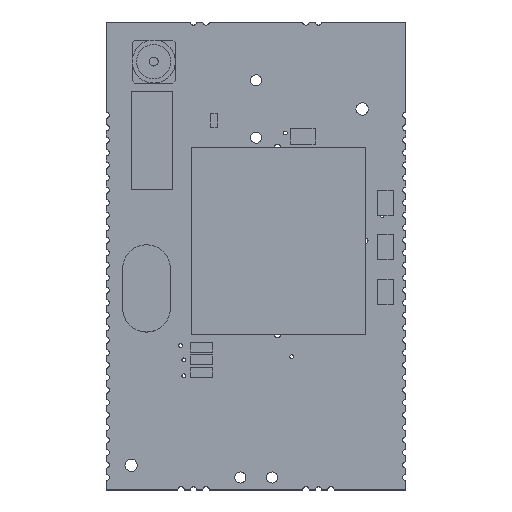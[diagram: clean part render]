
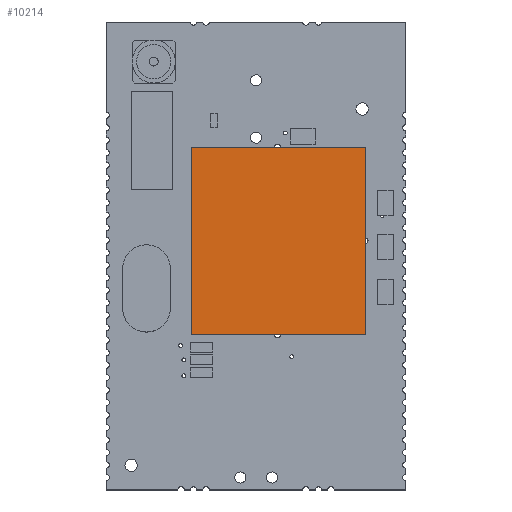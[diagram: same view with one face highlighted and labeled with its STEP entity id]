
A CAD part, top view. The second image highlights one B-rep face of the part: STEP entity #10214.
In plain terms, the highlighted planar face has unit normal (0, 0, 1) as drawn and (0, 1, 0) by its records, which use the part's own axes.
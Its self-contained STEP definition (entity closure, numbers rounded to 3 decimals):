
#305 = EDGE_CURVE ( 'NONE', #7940, #12393, #13549, .T. ) ;
#386 = DIRECTION ( 'NONE',  ( 0., 0., -1. ) ) ;
#723 = VECTOR ( 'NONE', #4906, 1000. ) ;
#1514 = EDGE_CURVE ( 'NONE', #10705, #7940, #4342, .T. ) ;
#1701 = DIRECTION ( 'NONE',  ( 0., 0., 1. ) ) ;
#1736 = VECTOR ( 'NONE', #386, 1000. ) ;
#2062 = DIRECTION ( 'NONE',  ( -1., 0., 0. ) ) ;
#2540 = EDGE_LOOP ( 'NONE', ( #8785, #7406, #3503, #8277 ) ) ;
#3039 = AXIS2_PLACEMENT_3D ( 'NONE', #7427, #8576, #1701 ) ;
#3220 = VECTOR ( 'NONE', #2062, 1000. ) ;
#3503 = ORIENTED_EDGE ( 'NONE', *, *, #305, .T. ) ;
#3599 = LINE ( 'NONE', #11228, #3220 ) ;
#3641 = CARTESIAN_POINT ( 'NONE',  ( 7.493, 2.54, 6.985 ) ) ;
#3796 = LINE ( 'NONE', #12896, #723 ) ;
#3966 = EDGE_CURVE ( 'NONE', #12393, #11734, #3599, .T. ) ;
#4031 = CARTESIAN_POINT ( 'NONE',  ( -7.493, 2.54, 6.985 ) ) ;
#4342 = LINE ( 'NONE', #4031, #7398 ) ;
#4906 = DIRECTION ( 'NONE',  ( 0., 0., 1. ) ) ;
#6328 = FACE_OUTER_BOUND ( 'NONE', #2540, .T. ) ;
#7398 = VECTOR ( 'NONE', #10874, 1000. ) ;
#7406 = ORIENTED_EDGE ( 'NONE', *, *, #1514, .T. ) ;
#7427 = CARTESIAN_POINT ( 'NONE',  ( 0., 2.54, 0. ) ) ;
#7781 = CARTESIAN_POINT ( 'NONE',  ( 7.493, 2.54, -6.985 ) ) ;
#7940 = VERTEX_POINT ( 'NONE', #3641 ) ;
#8277 = ORIENTED_EDGE ( 'NONE', *, *, #3966, .T. ) ;
#8576 = DIRECTION ( 'NONE',  ( 0., 1., 0. ) ) ;
#8771 = CARTESIAN_POINT ( 'NONE',  ( 7.493, 2.54, -6.985 ) ) ;
#8785 = ORIENTED_EDGE ( 'NONE', *, *, #10677, .T. ) ;
#8944 = CARTESIAN_POINT ( 'NONE',  ( -7.493, 2.54, -6.985 ) ) ;
#10214 = ADVANCED_FACE ( 'NONE', ( #6328 ), #14274, .T. ) ;
#10677 = EDGE_CURVE ( 'NONE', #11734, #10705, #3796, .T. ) ;
#10705 = VERTEX_POINT ( 'NONE', #10756 ) ;
#10756 = CARTESIAN_POINT ( 'NONE',  ( -7.493, 2.54, 6.985 ) ) ;
#10874 = DIRECTION ( 'NONE',  ( 1., 0., 0. ) ) ;
#11228 = CARTESIAN_POINT ( 'NONE',  ( -7.493, 2.54, -6.985 ) ) ;
#11734 = VERTEX_POINT ( 'NONE', #8944 ) ;
#12393 = VERTEX_POINT ( 'NONE', #7781 ) ;
#12896 = CARTESIAN_POINT ( 'NONE',  ( -7.493, 2.54, -6.985 ) ) ;
#13549 = LINE ( 'NONE', #8771, #1736 ) ;
#14274 = PLANE ( 'NONE',  #3039 ) ;
